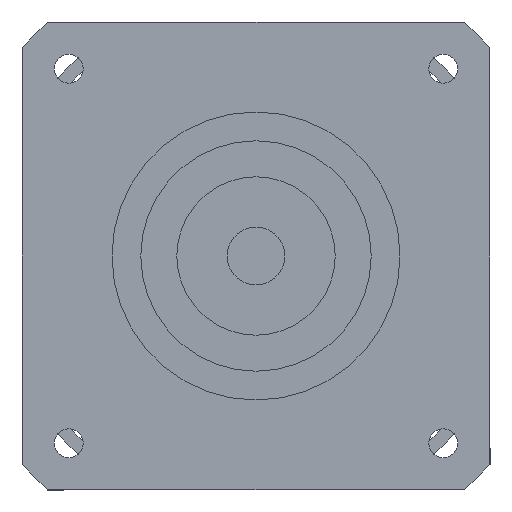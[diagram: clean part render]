
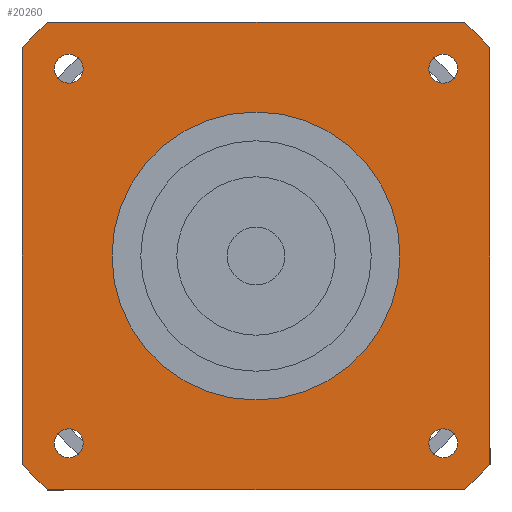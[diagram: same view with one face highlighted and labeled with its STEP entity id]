
A CAD part, left-side view. The second image highlights one B-rep face of the part: STEP entity #20260.
In plain terms, the highlighted planar face has unit normal (-1, 0, 0) as drawn and (0, 0, -1) by its records, which use the part's own axes.
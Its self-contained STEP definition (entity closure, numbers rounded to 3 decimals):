
#11110=CARTESIAN_POINT('',(-32.5,28.914,-58.));
#11120=VERTEX_POINT('',#11110);
#11270=CARTESIAN_POINT('',(-32.5,-28.914,-58.));
#11280=VERTEX_POINT('',#11270);
#11310=CARTESIAN_POINT('',(-32.5,32.5,-58.));
#11320=DIRECTION('',(0.,-1.,0.));
#11330=VECTOR('',#11320,1000.);
#11340=LINE('',#11310,#11330);
#11350=EDGE_CURVE('',#11120,#11280,#11340,.T.);
#12930=CARTESIAN_POINT('',(-28.914,-32.5,-58.));
#12940=VERTEX_POINT('',#12930);
#12970=CARTESIAN_POINT('',(0.,0.,
-58.));
#12980=DIRECTION('',(0.,0.,1.));
#12990=DIRECTION('',(0.,-1.,0.));
#13000=AXIS2_PLACEMENT_3D('',#12970,#12980,#12990);
#13010=CIRCLE('',#13000,43.5);
#13020=EDGE_CURVE('',#11280,#12940,#13010,.T.);
#17850=CARTESIAN_POINT('',(-28.914,32.5,-58.));
#17860=VERTEX_POINT('',#17850);
#17910=CARTESIAN_POINT('',(0.,0.,
-58.));
#17920=DIRECTION('',(0.,0.,1.));
#17930=DIRECTION('',(0.,-1.,0.));
#17940=AXIS2_PLACEMENT_3D('',#17910,#17920,#17930);
#17950=CIRCLE('',#17940,43.5);
#17960=EDGE_CURVE('',#17860,#11120,#17950,.T.);
#18100=CARTESIAN_POINT('',(28.914,32.5,-58.));
#18110=VERTEX_POINT('',#18100);
#18160=CARTESIAN_POINT('',(32.5,32.5,-58.));
#18170=DIRECTION('',(-1.,0.,0.));
#18180=VECTOR('',#18170,1000.);
#18190=LINE('',#18160,#18180);
#18200=EDGE_CURVE('',#18110,#17860,#18190,.T.);
#18310=CARTESIAN_POINT('',(0.,0.,
-58.));
#18320=DIRECTION('',(0.,0.,1.));
#18330=DIRECTION('',(0.,-1.,0.));
#18340=AXIS2_PLACEMENT_3D('',#18310,#18320,#18330);
#18350=CIRCLE('',#18340,43.5);
#18360=CARTESIAN_POINT('',(32.5,28.914,-58.));
#18370=VERTEX_POINT('',#18360);
#18380=EDGE_CURVE('',#18370,#18110,#18350,.T.);
#18590=CARTESIAN_POINT('',(32.5,-28.914,-58.));
#18600=VERTEX_POINT('',#18590);
#18650=CARTESIAN_POINT('',(32.5,-32.5,-58.));
#18660=DIRECTION('',(0.,1.,0.));
#18670=VECTOR('',#18660,1000.);
#18680=LINE('',#18650,#18670);
#18690=EDGE_CURVE('',#18600,#18370,#18680,.T.);
#18830=CARTESIAN_POINT('',(28.914,-32.5,-58.));
#18840=VERTEX_POINT('',#18830);
#18890=CARTESIAN_POINT('',(0.,0.,
-58.));
#18900=DIRECTION('',(0.,0.,1.));
#18910=DIRECTION('',(0.,-1.,0.));
#18920=AXIS2_PLACEMENT_3D('',#18890,#18900,#18910);
#18930=CIRCLE('',#18920,43.5);
#18940=EDGE_CURVE('',#18840,#18600,#18930,.T.);
#19070=CARTESIAN_POINT('',(-32.5,-32.5,-58.));
#19080=DIRECTION('',(1.,0.,0.));
#19090=VECTOR('',#19080,1000.);
#19100=LINE('',#19070,#19090);
#19110=EDGE_CURVE('',#12940,#18840,#19100,.T.);
#19160=CARTESIAN_POINT('',(-32.5,32.5,-58.));
#19170=DIRECTION('',(0.,0.,1.));
#19180=DIRECTION('',(-1.,0.,0.));
#19190=AXIS2_PLACEMENT_3D('',#19160,#19170,#19180);
#19200=PLANE('',#19190);
#19210=CARTESIAN_POINT('',(26.,-26.,-58.));
#19220=DIRECTION('',(0.,0.,-1.));
#19230=DIRECTION('',(1.,0.,0.));
#19240=AXIS2_PLACEMENT_3D('',#19210,#19220,#19230);
#19250=CIRCLE('',#19240,2.);
#19260=CARTESIAN_POINT('',(28.,-26.,-58.));
#19270=VERTEX_POINT('',#19260);
#19280=CARTESIAN_POINT('',(26.,-28.,-58.));
#19290=VERTEX_POINT('',#19280);
#19300=EDGE_CURVE('',#19270,#19290,#19250,.T.);
#19310=ORIENTED_EDGE('',*,*,#19300,.F.);
#19320=CARTESIAN_POINT('',(26.,-24.,-58.));
#19330=VERTEX_POINT('',#19320);
#19340=EDGE_CURVE('',#19290,#19330,#19250,.T.);
#19350=ORIENTED_EDGE('',*,*,#19340,.F.);
#19360=EDGE_CURVE('',#19330,#19270,#19250,.T.);
#19370=ORIENTED_EDGE('',*,*,#19360,.F.);
#19380=EDGE_LOOP('',(#19370,#19350,#19310));
#19390=FACE_BOUND('',#19380,.T.);
#19400=CARTESIAN_POINT('',(26.,26.,-58.));
#19410=DIRECTION('',(0.,0.,-1.));
#19420=DIRECTION('',(0.,1.,0.));
#19430=AXIS2_PLACEMENT_3D('',#19400,#19410,#19420);
#19440=CIRCLE('',#19430,2.);
#19450=CARTESIAN_POINT('',(26.,28.,-58.));
#19460=VERTEX_POINT('',#19450);
#19470=CARTESIAN_POINT('',(28.,26.,-58.));
#19480=VERTEX_POINT('',#19470);
#19490=EDGE_CURVE('',#19460,#19480,#19440,.T.);
#19500=ORIENTED_EDGE('',*,*,#19490,.F.);
#19510=CARTESIAN_POINT('',(24.,26.,-58.));
#19520=VERTEX_POINT('',#19510);
#19530=EDGE_CURVE('',#19480,#19520,#19440,.T.);
#19540=ORIENTED_EDGE('',*,*,#19530,.F.);
#19550=EDGE_CURVE('',#19520,#19460,#19440,.T.);
#19560=ORIENTED_EDGE('',*,*,#19550,.F.);
#19570=EDGE_LOOP('',(#19560,#19540,#19500));
#19580=FACE_BOUND('',#19570,.T.);
#19590=CARTESIAN_POINT('',(-26.,26.,-58.));
#19600=DIRECTION('',(0.,0.,-1.));
#19610=DIRECTION('',(-1.,0.,0.));
#19620=AXIS2_PLACEMENT_3D('',#19590,#19600,#19610);
#19630=CIRCLE('',#19620,2.);
#19640=CARTESIAN_POINT('',(-28.,26.,-58.));
#19650=VERTEX_POINT('',#19640);
#19660=CARTESIAN_POINT('',(-26.,28.,-58.));
#19670=VERTEX_POINT('',#19660);
#19680=EDGE_CURVE('',#19650,#19670,#19630,.T.);
#19690=ORIENTED_EDGE('',*,*,#19680,.F.);
#19700=CARTESIAN_POINT('',(-26.,24.,-58.));
#19710=VERTEX_POINT('',#19700);
#19720=EDGE_CURVE('',#19670,#19710,#19630,.T.);
#19730=ORIENTED_EDGE('',*,*,#19720,.F.);
#19740=EDGE_CURVE('',#19710,#19650,#19630,.T.);
#19750=ORIENTED_EDGE('',*,*,#19740,.F.);
#19760=EDGE_LOOP('',(#19750,#19730,#19690));
#19770=FACE_BOUND('',#19760,.T.);
#19780=CARTESIAN_POINT('',(-26.,-26.,-58.));
#19790=DIRECTION('',(0.,0.,-1.));
#19800=DIRECTION('',(0.,-1.,0.));
#19810=AXIS2_PLACEMENT_3D('',#19780,#19790,#19800);
#19820=CIRCLE('',#19810,2.);
#19830=CARTESIAN_POINT('',(-26.,-28.,-58.));
#19840=VERTEX_POINT('',#19830);
#19850=CARTESIAN_POINT('',(-28.,-26.,-58.));
#19860=VERTEX_POINT('',#19850);
#19870=EDGE_CURVE('',#19840,#19860,#19820,.T.);
#19880=ORIENTED_EDGE('',*,*,#19870,.F.);
#19890=CARTESIAN_POINT('',(-24.,-26.,-58.));
#19900=VERTEX_POINT('',#19890);
#19910=EDGE_CURVE('',#19860,#19900,#19820,.T.);
#19920=ORIENTED_EDGE('',*,*,#19910,.F.);
#19930=EDGE_CURVE('',#19900,#19840,#19820,.T.);
#19940=ORIENTED_EDGE('',*,*,#19930,.F.);
#19950=EDGE_LOOP('',(#19940,#19920,#19880));
#19960=FACE_BOUND('',#19950,.T.);
#19970=ORIENTED_EDGE('',*,*,#13020,.F.);
#19980=ORIENTED_EDGE('',*,*,#19110,.F.);
#19990=ORIENTED_EDGE('',*,*,#18940,.F.);
#20000=ORIENTED_EDGE('',*,*,#18690,.F.);
#20010=ORIENTED_EDGE('',*,*,#18380,.F.);
#20020=ORIENTED_EDGE('',*,*,#18200,.F.);
#20030=ORIENTED_EDGE('',*,*,#17960,.F.);
#20040=ORIENTED_EDGE('',*,*,#11350,.F.);
#20050=EDGE_LOOP('',(#20040,#20030,#20020,#20010,#20000,#19990,#19980,
#19970));
#20060=FACE_OUTER_BOUND('',#20050,.T.);
#20070=CARTESIAN_POINT('',(0.,0.,
-58.));
#20080=DIRECTION('',(0.,0.,1.));
#20090=DIRECTION('',(0.,-1.,0.));
#20100=AXIS2_PLACEMENT_3D('',#20070,#20080,#20090);
#20110=CIRCLE('',#20100,20.);
#20120=CARTESIAN_POINT('',(20.,0.,-58.));
#20130=VERTEX_POINT('',#20120);
#20140=CARTESIAN_POINT('',(-20.,0.,-58.));
#20150=VERTEX_POINT('',#20140);
#20160=EDGE_CURVE('',#20130,#20150,#20110,.T.);
#20170=ORIENTED_EDGE('',*,*,#20160,.T.);
#20180=CARTESIAN_POINT('',(0.,-20.,-58.));
#20190=VERTEX_POINT('',#20180);
#20200=EDGE_CURVE('',#20190,#20130,#20110,.T.);
#20210=ORIENTED_EDGE('',*,*,#20200,.T.);
#20220=EDGE_CURVE('',#20150,#20190,#20110,.T.);
#20230=ORIENTED_EDGE('',*,*,#20220,.T.);
#20240=EDGE_LOOP('',(#20230,#20210,#20170));
#20250=FACE_BOUND('',#20240,.T.);
#20260=ADVANCED_FACE('',(#19390,#19580,#19770,#19960,#20060,#20250),
#19200,.F.);
